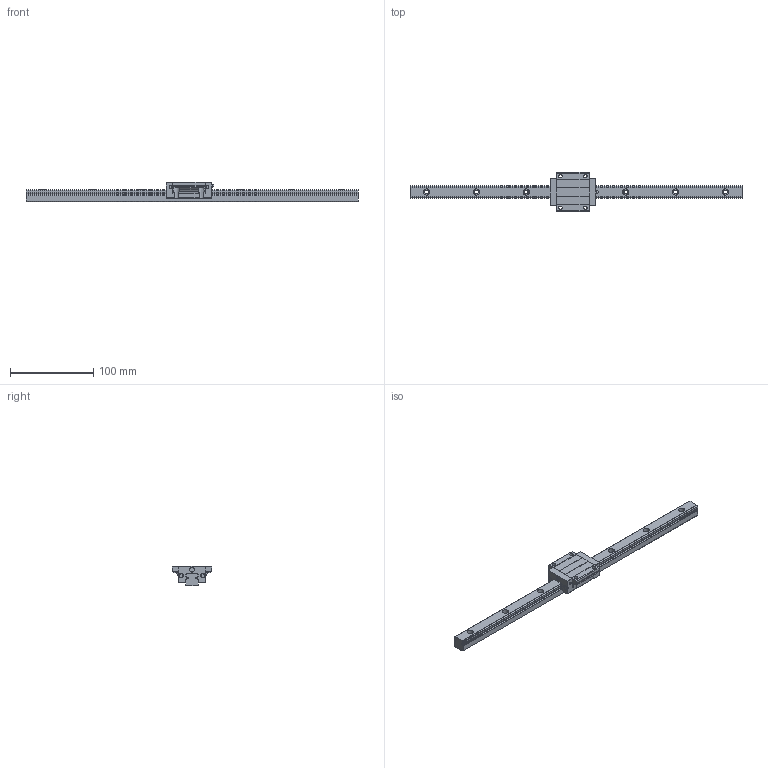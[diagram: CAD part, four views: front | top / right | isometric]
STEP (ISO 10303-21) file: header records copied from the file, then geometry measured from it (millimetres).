
FILE_DESCRIPTION((''),'2;1');
FILE_NAME('D:\製品 (図面)\カタログ用3D\リニアガイド関連\STEP形式\LGHR-F\LGHR15F.stp','2010-06-02T15:53:12',('Tsuchiya'),(''),'Autodesk Inventor 10','Autodesk Inventor 10','');
FILE_SCHEMA(('AUTOMOTIVE_DESIGN { 1 0 10303 214 1 1 1 1 }'));
Length unit declared in the file: millimetre
Products named in the file (3): LGHR15F; LGHR15F1; LGHR15F2
Assembly tree (2 placements, depth 2):
  LGHR15F
    LGHR15F1
    LGHR15F2
Bounding box: 400 x 47 x 24 mm (x, y, z)
Volume: 111887.4 mm3; surface area: 38319.5 mm2
Topology: 2 solids, 2 shells, 245 faces, 650 edges, 432 vertices
Faces by surface type: plane 115, bspline 65, cylinder 63, sphere 2
Full cylindrical faces by diameter (mm): 2.9 x2, 3.5 x1, 4.134 x2, 4.5 x3, 5.6 x1
Entity records: 8003 total; most frequent: CARTESIAN_POINT 1971, ORIENTED_EDGE 1234, DIRECTION 1170, EDGE_CURVE 617, VERTEX_POINT 431, VECTOR 410, LINE 410, AXIS2_PLACEMENT_3D 380
